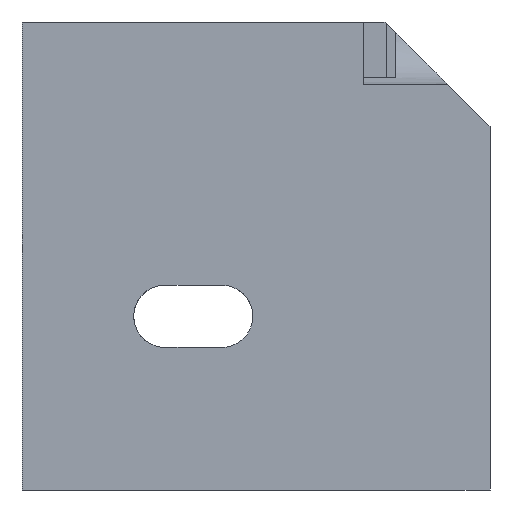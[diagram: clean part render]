
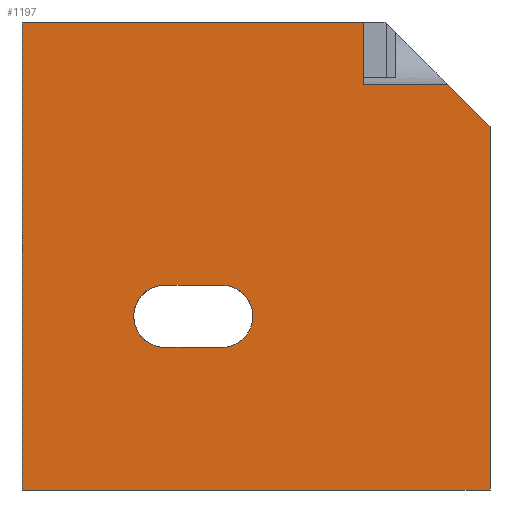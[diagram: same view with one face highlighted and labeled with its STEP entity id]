
A CAD part, left-side view. The second image highlights one B-rep face of the part: STEP entity #1197.
In plain terms, the highlighted planar face has unit normal (-1, 0, 0).
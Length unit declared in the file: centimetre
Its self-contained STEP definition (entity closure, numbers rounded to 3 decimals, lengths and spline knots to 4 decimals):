
#6 = VERTEX_POINT ( 'NONE', #290 ) ;
#57 = VERTEX_POINT ( 'NONE', #199 ) ;
#64 = VECTOR ( 'NONE', #265, 100. ) ;
#68 = DIRECTION ( 'NONE',  ( 0., 0.707, 0.707 ) ) ;
#73 = VERTEX_POINT ( 'NONE', #1108 ) ;
#79 = CARTESIAN_POINT ( 'NONE',  ( 0., 90.4484, 866.0969 ) ) ;
#116 = LINE ( 'NONE', #1160, #163 ) ;
#125 = EDGE_LOOP ( 'NONE', ( #760, #1280, #380, #397, #1337, #274, #539 ) ) ;
#137 = VECTOR ( 'NONE', #601, 100. ) ;
#141 = CARTESIAN_POINT ( 'NONE',  ( 0., 269.986, 866.0969 ) ) ;
#149 = EDGE_CURVE ( 'NONE', #6, #521, #1244, .T. ) ;
#160 = VERTEX_POINT ( 'NONE', #322 ) ;
#163 = VECTOR ( 'NONE', #68, 100. ) ;
#171 = CARTESIAN_POINT ( 'NONE',  ( 0., 1000., 1000. ) ) ;
#181 = DIRECTION ( 'NONE',  ( 0., -1., 0. ) ) ;
#189 = EDGE_CURVE ( 'NONE', #160, #334, #455, .T. ) ;
#199 = CARTESIAN_POINT ( 'NONE',  ( 0., 1000., 0. ) ) ;
#218 = CARTESIAN_POINT ( 'NONE',  ( 0., 573.2008, 304.6757 ) ) ;
#255 = CARTESIAN_POINT ( 'NONE',  ( 0., 1000., 1000. ) ) ;
#265 = DIRECTION ( 'NONE',  ( 0., 0., -1. ) ) ;
#272 = PLANE ( 'NONE',  #1036 ) ;
#274 = ORIENTED_EDGE ( 'NONE', *, *, #747, .T. ) ;
#290 = CARTESIAN_POINT ( 'NONE',  ( 0., 0., 775.6485 ) ) ;
#293 = LINE ( 'NONE', #1183, #974 ) ;
#318 = DIRECTION ( 'NONE',  ( 0., -1., 0. ) ) ;
#322 = CARTESIAN_POINT ( 'NONE',  ( 0., 573.2008, 437.6616 ) ) ;
#334 = VERTEX_POINT ( 'NONE', #218 ) ;
#341 = EDGE_CURVE ( 'NONE', #1309, #160, #777, .T. ) ;
#359 = ORIENTED_EDGE ( 'NONE', *, *, #1277, .T. ) ;
#370 = LINE ( 'NONE', #730, #64 ) ;
#376 = FACE_BOUND ( 'NONE', #740, .T. ) ;
#378 = DIRECTION ( 'NONE',  ( 1., 0., 0. ) ) ;
#380 = ORIENTED_EDGE ( 'NONE', *, *, #942, .F. ) ;
#397 = ORIENTED_EDGE ( 'NONE', *, *, #430, .F. ) ;
#430 = EDGE_CURVE ( 'NONE', #548, #73, #875, .T. ) ;
#455 = CIRCLE ( 'NONE', #1203, 66.4929 ) ;
#485 = DIRECTION ( 'NONE',  ( 1., 0., 0. ) ) ;
#496 = ORIENTED_EDGE ( 'NONE', *, *, #341, .T. ) ;
#512 = DIRECTION ( 'NONE',  ( 0., 1., 0. ) ) ;
#521 = VERTEX_POINT ( 'NONE', #919 ) ;
#536 = VERTEX_POINT ( 'NONE', #141 ) ;
#538 = AXIS2_PLACEMENT_3D ( 'NONE', #1304, #378, #716 ) ;
#539 = ORIENTED_EDGE ( 'NONE', *, *, #149, .F. ) ;
#548 = VERTEX_POINT ( 'NONE', #255 ) ;
#601 = DIRECTION ( 'NONE',  ( 0., 1., 0. ) ) ;
#620 = ORIENTED_EDGE ( 'NONE', *, *, #189, .T. ) ;
#631 = DIRECTION ( 'NONE',  ( 0., 0., -1. ) ) ;
#648 = VERTEX_POINT ( 'NONE', #1364 ) ;
#680 = EDGE_CURVE ( 'NONE', #6, #1200, #116, .T. ) ;
#701 = LINE ( 'NONE', #854, #137 ) ;
#714 = DIRECTION ( 'NONE',  ( 1., 0., 0. ) ) ;
#716 = DIRECTION ( 'NONE',  ( 0., 0., -1. ) ) ;
#727 = EDGE_CURVE ( 'NONE', #1200, #536, #701, .T. ) ;
#730 = CARTESIAN_POINT ( 'NONE',  ( 0., 1000., 1000. ) ) ;
#731 = VECTOR ( 'NONE', #512, 100. ) ;
#740 = EDGE_LOOP ( 'NONE', ( #496, #620, #359, #1248 ) ) ;
#747 = EDGE_CURVE ( 'NONE', #57, #521, #293, .T. ) ;
#754 = EDGE_CURVE ( 'NONE', #648, #1309, #1168, .T. ) ;
#760 = ORIENTED_EDGE ( 'NONE', *, *, #680, .T. ) ;
#761 = CARTESIAN_POINT ( 'NONE',  ( 0., 694.9172, 437.6616 ) ) ;
#777 = LINE ( 'NONE', #761, #1130 ) ;
#854 = CARTESIAN_POINT ( 'NONE',  ( 0., 269.986, 866.0969 ) ) ;
#858 = CARTESIAN_POINT ( 'NONE',  ( 0., 573.2008, 304.6757 ) ) ;
#875 = LINE ( 'NONE', #1323, #1082 ) ;
#882 = DIRECTION ( 'NONE',  ( 0., -1., 0. ) ) ;
#919 = CARTESIAN_POINT ( 'NONE',  ( 0., 0., 0. ) ) ;
#942 = EDGE_CURVE ( 'NONE', #73, #536, #1314, .T. ) ;
#974 = VECTOR ( 'NONE', #181, 100. ) ;
#1013 = CARTESIAN_POINT ( 'NONE',  ( 0., 573.2008, 371.1686 ) ) ;
#1022 = CARTESIAN_POINT ( 'NONE',  ( 0., 0., 1000. ) ) ;
#1036 = AXIS2_PLACEMENT_3D ( 'NONE', #171, #714, #631 ) ;
#1050 = VECTOR ( 'NONE', #1422, 100. ) ;
#1076 = CARTESIAN_POINT ( 'NONE',  ( 0., 269.986, 1000. ) ) ;
#1082 = VECTOR ( 'NONE', #318, 100. ) ;
#1084 = VECTOR ( 'NONE', #1326, 100. ) ;
#1108 = CARTESIAN_POINT ( 'NONE',  ( 0., 269.986, 1000. ) ) ;
#1123 = EDGE_CURVE ( 'NONE', #548, #57, #370, .T. ) ;
#1130 = VECTOR ( 'NONE', #882, 100. ) ;
#1160 = CARTESIAN_POINT ( 'NONE',  ( 0., 224.3515, 1000. ) ) ;
#1168 = CIRCLE ( 'NONE', #538, 66.4929 ) ;
#1183 = CARTESIAN_POINT ( 'NONE',  ( 0., 1000., 0. ) ) ;
#1197 = ADVANCED_FACE ( 'NONE', ( #376, #1287 ), #272, .F. ) ;
#1200 = VERTEX_POINT ( 'NONE', #79 ) ;
#1203 = AXIS2_PLACEMENT_3D ( 'NONE', #1013, #485, #1271 ) ;
#1244 = LINE ( 'NONE', #1022, #1084 ) ;
#1248 = ORIENTED_EDGE ( 'NONE', *, *, #754, .T. ) ;
#1271 = DIRECTION ( 'NONE',  ( 0., 0., -1. ) ) ;
#1277 = EDGE_CURVE ( 'NONE', #334, #648, #1306, .T. ) ;
#1280 = ORIENTED_EDGE ( 'NONE', *, *, #727, .T. ) ;
#1287 = FACE_OUTER_BOUND ( 'NONE', #125, .T. ) ;
#1304 = CARTESIAN_POINT ( 'NONE',  ( 0., 694.9172, 371.1686 ) ) ;
#1306 = LINE ( 'NONE', #858, #731 ) ;
#1309 = VERTEX_POINT ( 'NONE', #1432 ) ;
#1314 = LINE ( 'NONE', #1076, #1050 ) ;
#1323 = CARTESIAN_POINT ( 'NONE',  ( 0., 1000., 1000. ) ) ;
#1326 = DIRECTION ( 'NONE',  ( 0., 0., -1. ) ) ;
#1337 = ORIENTED_EDGE ( 'NONE', *, *, #1123, .T. ) ;
#1364 = CARTESIAN_POINT ( 'NONE',  ( 0., 694.9172, 304.6757 ) ) ;
#1422 = DIRECTION ( 'NONE',  ( 0., 0., -1. ) ) ;
#1432 = CARTESIAN_POINT ( 'NONE',  ( 0., 694.9172, 437.6616 ) ) ;
